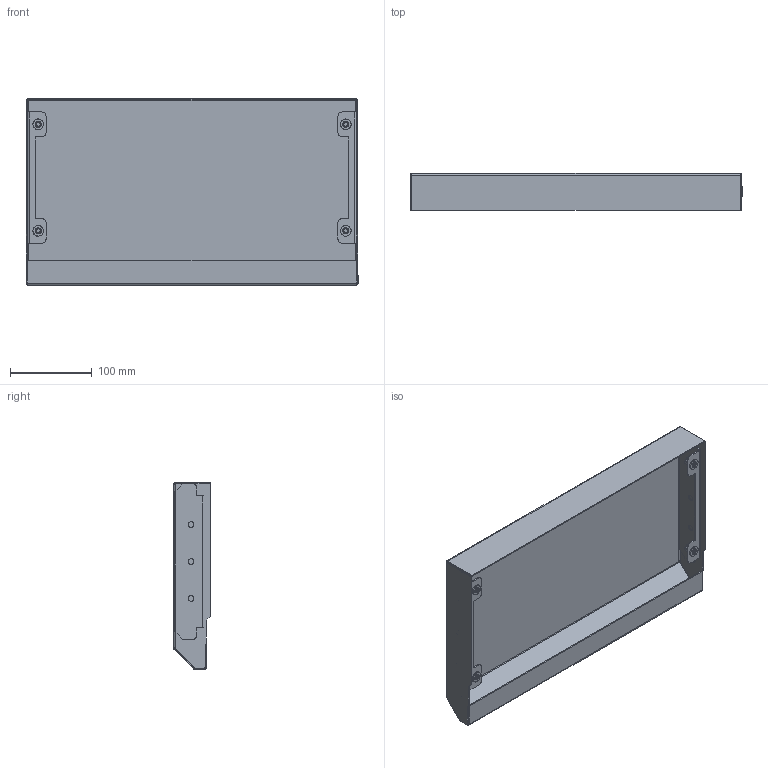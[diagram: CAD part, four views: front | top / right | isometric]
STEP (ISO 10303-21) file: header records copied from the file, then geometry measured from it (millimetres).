
FILE_DESCRIPTION (( 'STEP AP214' ), '1' );
FILE_NAME ('RKC 40.21 ﾊ鰀靍裲 鈞隆.STEP', '2023-07-29T07:49:07', ( '' ), ( '' ), 'SwSTEP 2.0', 'SolidWorks 2019', '' );
FILE_SCHEMA (( 'AUTOMOTIVE_DESIGN' ));
Length unit declared in the file: millimetre
Products named in the file (4): RKC 40.21 ﾊ鰀靍裲 鈞隆; RKC Y.Z 01.001 扻踑謥獥RKC 40.21; Ãàéêà-çàêë¸ïêà Ì6; RKC Z 01.002 扰鍙欙樥燲RKC 21
Assembly tree (7 placements, depth 2):
  RKC 40.21 ﾊ鰀靍裲 鈞隆
    RKC Y.Z 01.001 扻踑謥獥RKC 40.21
    RKC Z 01.002 扰鍙欙樥燲RKC 21  x2
    Ãàéêà-çàêë¸ïêà Ì6  x4
Bounding box: 405 x 45 x 228 mm (x, y, z)
Volume: 233177.6 mm3; surface area: 337558.7 mm2
Topology: 7 solids, 7 shells, 420 faces, 1046 edges, 656 vertices
Faces by surface type: cylinder 214, plane 136, torus 40, bspline 30
Entity records: 8259 total; most frequent: CARTESIAN_POINT 2983, ORIENTED_EDGE 1112, DIRECTION 1024, EDGE_CURVE 556, AXIS2_PLACEMENT_3D 372, VERTEX_POINT 347, VECTOR 280, LINE 280
